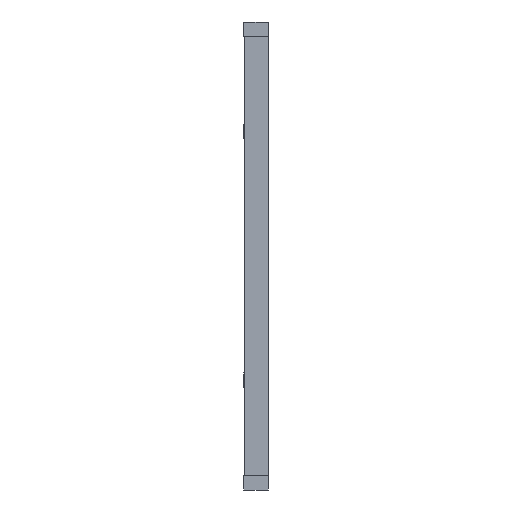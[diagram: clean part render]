
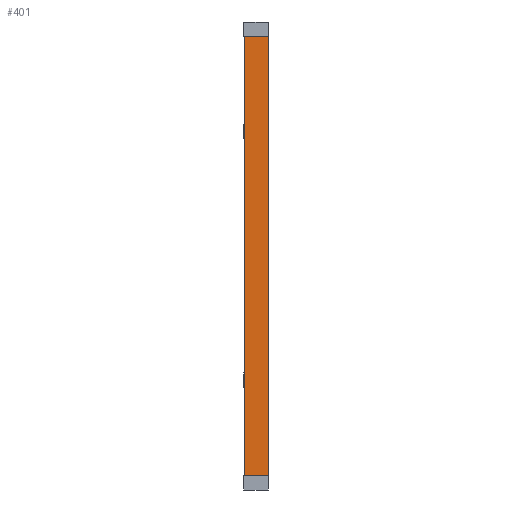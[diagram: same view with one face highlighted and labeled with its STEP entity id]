
A CAD part, left-side view. The second image highlights one B-rep face of the part: STEP entity #401.
In plain terms, the highlighted planar face has unit normal (-1, 0, 0).
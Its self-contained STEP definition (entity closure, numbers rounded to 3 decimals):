
#283=CARTESIAN_POINT('',(0.0,0.0,62.0));
#286=CARTESIAN_POINT('',(0.0,100.0,62.0));
#287=CARTESIAN_POINT('',(0.0,0.0,1938.0));
#290=CARTESIAN_POINT('',(0.0,100.0,1938.0));
#291=VERTEX_POINT('',#283);
#294=VERTEX_POINT('',#286);
#295=VERTEX_POINT('',#287);
#298=VERTEX_POINT('',#290);
#311=DIRECTION('',(0.0,-1.0,0.0));
#312=VECTOR('',#311,1.0);
#313=LINE('',#286,#312);
#314=EDGE_CURVE('',#294,#291,#313,.T.);
#327=DIRECTION('',(0.0,-1.0,0.0));
#328=VECTOR('',#327,1.0);
#329=LINE('',#290,#328);
#330=EDGE_CURVE('',#298,#295,#329,.T.);
#331=DIRECTION('',(0.0,0.0,1.0));
#332=VECTOR('',#331,1.0);
#333=LINE('',#283,#332);
#334=EDGE_CURVE('',#291,#295,#333,.T.);
#343=DIRECTION('',(0.0,0.0,1.0));
#344=VECTOR('',#343,1.0);
#345=LINE('',#286,#344);
#346=EDGE_CURVE('',#294,#298,#345,.T.);
#391=ORIENTED_EDGE('',*,*,#334,.T.);
#392=ORIENTED_EDGE('',*,*,#330,.F.);
#393=ORIENTED_EDGE('',*,*,#346,.F.);
#394=ORIENTED_EDGE('',*,*,#314,.T.);
#395=EDGE_LOOP('',(#391,#392,#393,#394));
#396=FACE_OUTER_BOUND('',#395,.T.);
#397=DIRECTION('',(-1.0,0.0,0.0));
#398=DIRECTION('',(0.0,1.0,0.0));
#399=AXIS2_PLACEMENT_3D('',#283,#397,#398);
#400=PLANE('',#399);
#401=ADVANCED_FACE('',(#396),#400,.T.);
